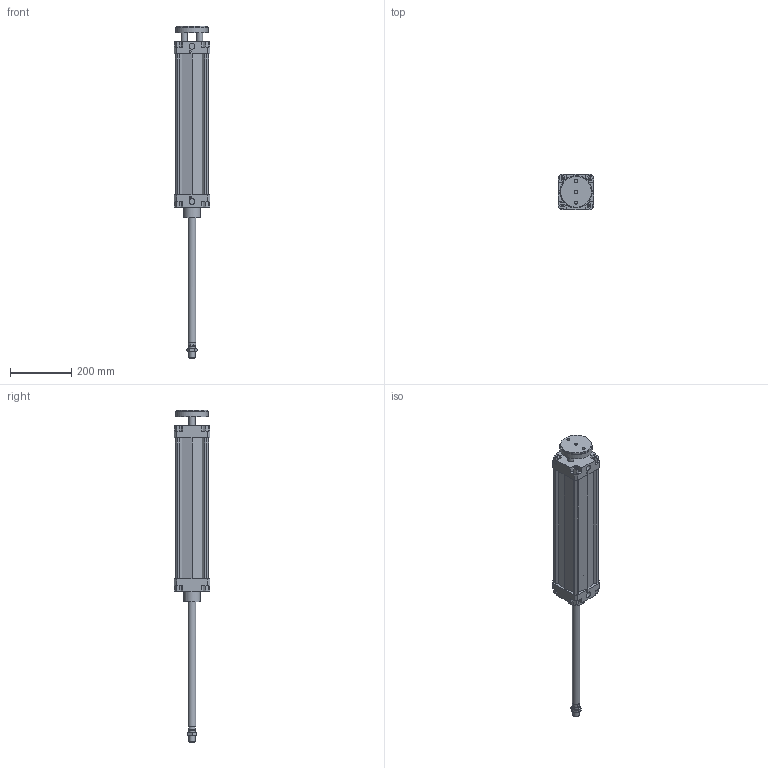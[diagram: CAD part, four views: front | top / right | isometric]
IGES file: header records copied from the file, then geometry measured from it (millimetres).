
Global section: file name: 132#_100_0400_02; native system: Autodesk Inventor 2014; preprocessor: unknown; author: A. Manieri; date: 20161006.163802; units: millimetre
Bounding box: 115 x 115 x 1080 mm (x, y, z)
Volume: 3317481.7 mm3; surface area: 623991 mm2
Topology: 3 solids, 3 shells, 220 faces, 589 edges, 397 vertices
Faces by surface type: bspline 220
